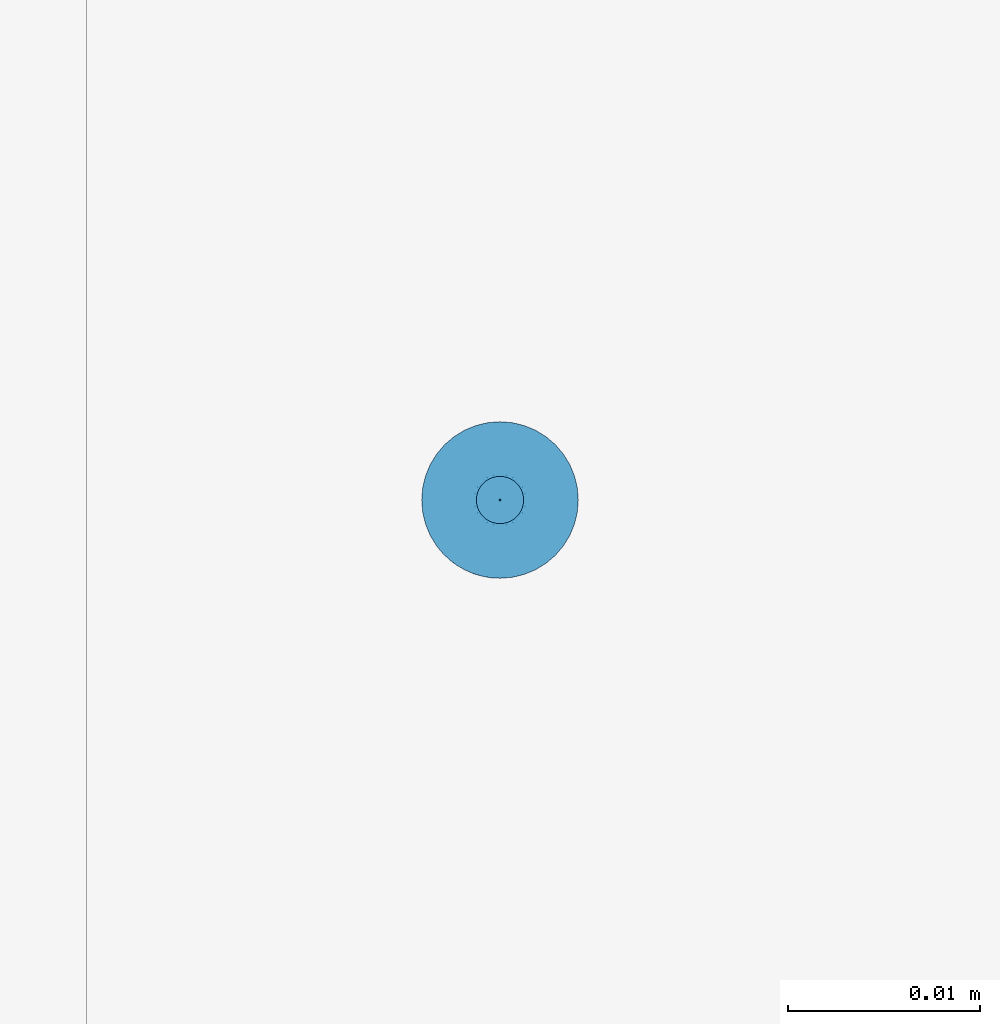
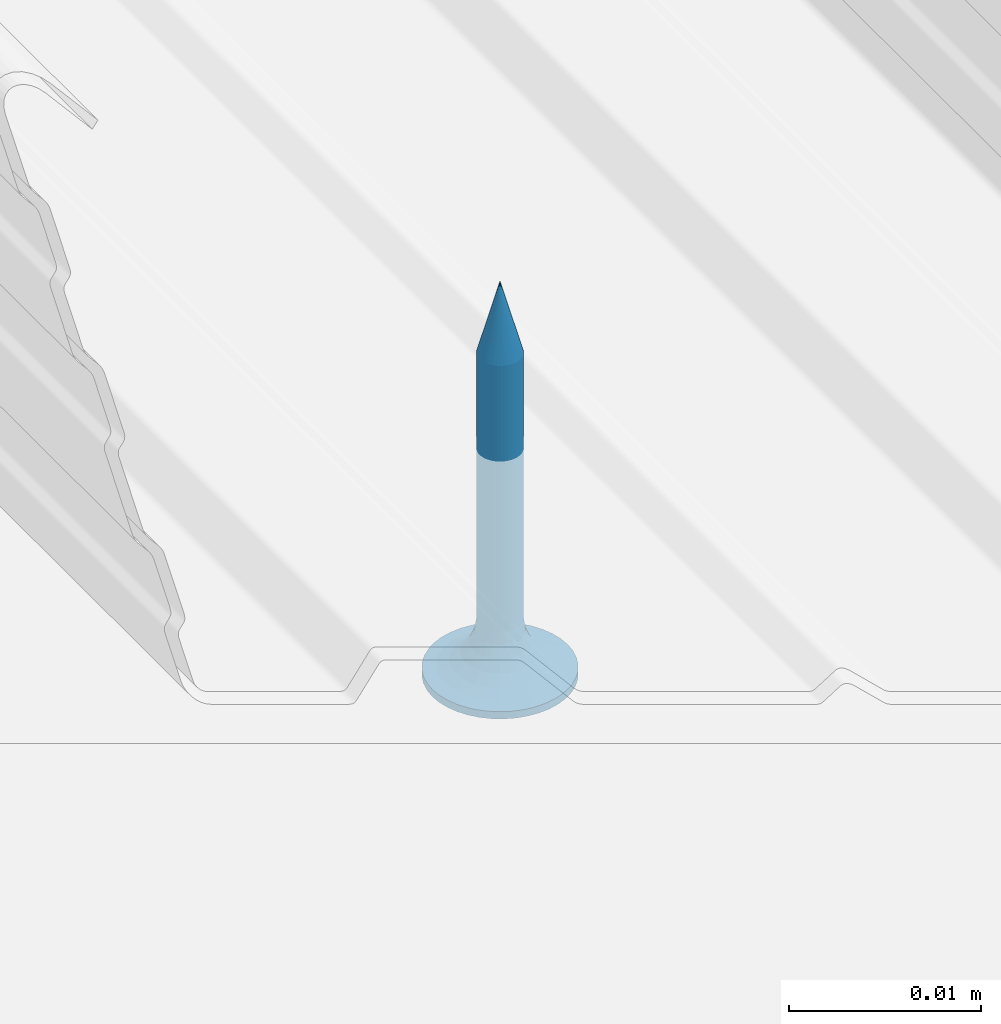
# One storey, part 19 of 62: 1 slab.
"""IFC2X3 building model written with IfcOpenShell, lengths in millimetres."""

from ifc_helpers import new_model, entity, si_unit, converted_unit, direction, frame, origin, origin_with_axes, place, context, project, spatial, faceted_brep, element, save


model = new_model("IFC2X3")

# Units and contexts
model_context = context("Model", 3, precision=1e-05, world=origin(), true_north=direction((0.0, 1.0, 0.0)))
ifc_project = project(units=[si_unit("LENGTHUNIT", "METRE", prefix="MILLI"), si_unit("AREAUNIT", "SQUARE_METRE"), si_unit("VOLUMEUNIT", "CUBIC_METRE"), converted_unit("PLANEANGLEUNIT", "DEGREE", entity("IfcPlaneAngleMeasure", 0.01745), si_unit("PLANEANGLEUNIT", "RADIAN"), dimensions=[0, 0, 0, 0, 0, 0, 0]), si_unit("SOLIDANGLEUNIT", "STERADIAN"), si_unit("MASSUNIT", "GRAM"), si_unit("TIMEUNIT", "SECOND"), si_unit("THERMODYNAMICTEMPERATUREUNIT", "DEGREE_CELSIUS"), si_unit("LUMINOUSINTENSITYUNIT", "LUMEN")], contexts=[model_context])

# Site, building, storey
site_placement = place(None, origin_with_axes())
site = spatial("IfcSite", under=ifc_project, at=site_placement, Name="Default Site", CompositionType="ELEMENT")
building_placement = place(site_placement, origin_with_axes())
building = spatial("IfcBuilding", under=site, at=building_placement, Name="Default Building", CompositionType="ELEMENT")
storey_placement = place(building_placement, origin_with_axes())
storey = spatial("IfcBuildingStorey", under=building, at=storey_placement, Name="Default Building Storey", CompositionType="ELEMENT", Elevation=0.0)

# Slab
slab_placement = place(storey_placement, frame((2896.661558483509, 933.9019927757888, 4687.393042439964), z_axis=(0.0, 1.0, 2.220446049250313e-16), x_axis=(1.0, -1.802054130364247e-31, 8.115730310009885e-16)))
element("IfcSlab", 1, at=slab_placement, inside=storey, Name="Wkręt RIGIPS TN 25", context=model_context, shape_type="Brep", body=[
    faceted_brep([(-141.5377463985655, 3390.556721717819, 555.8000000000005), (-141.5377463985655, 3391.020944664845, 555.8000000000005), (-141.4875329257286, 3391.020944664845, 555.1619773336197), (-141.4875329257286, 3390.556721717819, 555.1619773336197), (-141.338128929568, 3391.020944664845, 554.5396649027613), (-141.338128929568, 3390.556721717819, 554.5396649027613), (-141.0932132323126, 3391.020944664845, 553.9483861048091), (-141.0932132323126, 3390.556721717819, 553.9483861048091), (-140.7588164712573, 3391.020944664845, 553.4027001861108), (-140.7588164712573, 3390.556721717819, 553.4027001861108), (-140.3431726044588, 3391.020944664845, 552.9160437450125), (-140.4541727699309, 3390.556721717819, 553.0314907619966), (-140.1080097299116, 3390.556721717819, 552.6986614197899), (-139.8565161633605, 3391.020944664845, 552.500399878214), (-139.7251262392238, 3390.556721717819, 552.4088262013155), (-139.3108302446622, 3391.020944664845, 552.1660031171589), (-139.3108302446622, 3390.556721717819, 552.1660031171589), (-138.8708651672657, 3390.556721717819, 551.9735584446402), (-138.7195514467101, 3391.020944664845, 551.9210874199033), (-138.4113302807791, 3390.556721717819, 551.8341600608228), (-137.9385961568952, 3390.556721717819, 551.7497404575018), (-138.0972390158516, 3391.020944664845, 551.7716834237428), (-137.459216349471, 3391.020944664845, 551.7214699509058), (-137.459216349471, 3390.556721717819, 551.7214699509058), (-136.8211936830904, 3391.020944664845, 551.7716834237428), (-136.8211936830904, 3390.556721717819, 551.7716834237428), (-136.198881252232, 3391.020944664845, 551.9210874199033), (-136.198881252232, 3390.556721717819, 551.9210874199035), (-135.6076024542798, 3391.020944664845, 552.1660031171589), (-135.6076024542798, 3390.556721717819, 552.1660031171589), (-135.0619165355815, 3391.020944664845, 552.500399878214), (-135.0619165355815, 3390.556721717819, 552.500399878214), (-134.5752600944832, 3391.020944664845, 552.9160437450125), (-134.5752600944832, 3390.556721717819, 552.9160437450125), (-134.1596162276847, 3391.020944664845, 553.4027001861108), (-134.1596162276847, 3390.556721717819, 553.4027001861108), (-133.8252194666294, 3391.020944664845, 553.9483861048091), (-133.8252194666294, 3390.556721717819, 553.9483861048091), (-133.580303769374, 3391.020944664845, 554.5396649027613), (-133.580303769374, 3390.556721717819, 554.5396649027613), (-133.4308997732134, 3391.020944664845, 556.438022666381), (-133.4308997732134, 3390.556721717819, 556.438022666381), (-133.3806863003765, 3390.556721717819, 555.8000000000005), (-133.3806863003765, 3391.020944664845, 555.8000000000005), (-133.4308997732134, 3390.556721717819, 555.1619773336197), (-133.4308997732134, 3391.020944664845, 555.1619773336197), (-133.580303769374, 3391.020944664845, 557.0603350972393), (-133.580303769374, 3390.556721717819, 557.0603350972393), (-133.8252194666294, 3391.020944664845, 557.6516138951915), (-133.8252194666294, 3390.556721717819, 557.6516138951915), (-134.1596162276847, 3391.020944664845, 558.1972998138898), (-134.1596162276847, 3390.556721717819, 558.1972998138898), (-134.5752600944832, 3391.020944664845, 558.6839562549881), (-134.5752600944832, 3390.556721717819, 558.6839562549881), (-135.0619165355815, 3391.020944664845, 559.0996001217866), (-135.0619165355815, 3390.556721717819, 559.0996001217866), (-135.6076024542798, 3391.020944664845, 559.4339968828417), (-135.6076024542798, 3390.556721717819, 559.4339968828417), (-136.198881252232, 3391.020944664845, 559.6789125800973), (-136.198881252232, 3390.556721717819, 559.6789125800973), (-136.8211936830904, 3391.020944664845, 559.8283165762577), (-136.8211936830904, 3390.556721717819, 559.8283165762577), (-137.459216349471, 3391.020944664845, 559.8785300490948), (-137.459216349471, 3390.556721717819, 559.8785300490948), (-138.0972390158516, 3391.020944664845, 559.8283165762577), (-138.0972390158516, 3390.556721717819, 559.8283165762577), (-138.7195514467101, 3391.020944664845, 559.6789125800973), (-138.7195514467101, 3390.556721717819, 559.6789125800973), (-139.3108302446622, 3391.020944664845, 559.4339968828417), (-139.3108302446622, 3390.556721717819, 559.4339968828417), (-139.8565161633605, 3391.020944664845, 559.0996001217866), (-139.8565161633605, 3390.556721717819, 559.0996001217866), (-140.3431726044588, 3391.020944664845, 558.6839562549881), (-140.3431726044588, 3390.556721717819, 558.6839562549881), (-140.7588164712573, 3391.020944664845, 558.1972998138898), (-140.7588164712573, 3390.556721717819, 558.1972998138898), (-141.0932132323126, 3391.020944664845, 557.6516138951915), (-141.0932132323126, 3390.556721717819, 557.6516138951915), (-141.338128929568, 3391.020944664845, 557.0603350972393), (-141.338128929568, 3390.556721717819, 557.0603350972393), (-141.4875329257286, 3391.020944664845, 556.438022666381), (-141.4875329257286, 3390.556721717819, 556.438022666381), (-137.8060615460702, 3388.229732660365, 554.5055560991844), (-137.459216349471, 3387.475459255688, 554.5693795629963), (-137.6517277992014, 3387.475459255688, 554.5845305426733), (-137.459216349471, 3388.229732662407, 554.4598930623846), (-137.8394989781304, 3387.475459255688, 554.6296104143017), (-138.1292698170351, 3388.229732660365, 554.6394333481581), (-138.0179063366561, 3387.475459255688, 554.7035091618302), (-138.1825568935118, 3387.475459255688, 554.8044071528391), (-138.4068150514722, 3388.229732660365, 554.8524012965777), (-138.3293964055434, 3387.475459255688, 554.9298199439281), (-138.6197830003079, 3388.229732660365, 555.1299465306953), (-138.4548091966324, 3387.475459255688, 555.0766594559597), (-138.5557071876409, 3387.475459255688, 555.2413100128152), (-138.7536602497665, 3388.229732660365, 555.4531548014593), (-138.6296059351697, 3387.475459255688, 555.4197173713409), (-138.6746858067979, 3387.475459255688, 555.6074885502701), (-138.7993232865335, 3388.229732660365, 555.7999999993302), (-138.6898367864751, 3387.475459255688, 555.8000000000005), (-138.7536602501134, 3388.229732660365, 556.1468451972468), (-138.6746858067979, 3387.475459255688, 555.9925114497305), (-138.6296059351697, 3387.475459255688, 556.1802826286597), (-138.6197830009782, 3388.229732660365, 556.4700534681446), (-138.5557071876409, 3387.475459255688, 556.3586899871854), (-138.4548091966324, 3387.475459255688, 556.5233405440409), (-138.4068150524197, 3388.229732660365, 556.7475987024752), (-138.3293964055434, 3387.475459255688, 556.6701800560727), (-138.1292698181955, 3388.229732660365, 556.9605666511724), (-138.1825568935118, 3387.475459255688, 556.7955928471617), (-138.0179063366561, 3387.475459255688, 556.8964908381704), (-137.8060615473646, 3388.229732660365, 557.0944439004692), (-137.8394989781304, 3387.475459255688, 556.9703895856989), (-137.6517277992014, 3387.475459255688, 557.0154694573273), (-137.459216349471, 3388.229732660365, 557.1401069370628), (-137.459216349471, 3387.475459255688, 557.0306204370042), (-137.1123711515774, 3388.229732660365, 557.0944439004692), (-137.2667048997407, 3387.475459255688, 557.0154694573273), (-137.0789337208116, 3387.475459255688, 556.9703895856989), (-136.7891628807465, 3388.229732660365, 556.9605666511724), (-136.9005263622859, 3387.475459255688, 556.8964908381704), (-136.7358758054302, 3387.475459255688, 556.7955928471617), (-136.5116176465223, 3388.229732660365, 556.7475987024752), (-136.5890362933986, 3387.475459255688, 556.6701800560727), (-136.2986496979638, 3388.229732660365, 556.4700534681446), (-136.4636235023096, 3387.475459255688, 556.5233405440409), (-136.3627255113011, 3387.475459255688, 556.3586899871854), (-136.1647724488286, 3388.229732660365, 556.1468451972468), (-136.2888267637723, 3387.475459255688, 556.1802826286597), (-136.2437468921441, 3387.475459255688, 555.9925114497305), (-136.1191094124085, 3388.229732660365, 555.7999999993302), (-136.2285959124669, 3387.475459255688, 555.8000000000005), (-136.1647724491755, 3388.229732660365, 555.4531548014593), (-136.2437468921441, 3387.475459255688, 555.6074885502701), (-136.2888267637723, 3387.475459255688, 555.4197173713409), (-136.2986496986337, 3388.229732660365, 555.1299465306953), (-136.3627255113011, 3387.475459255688, 555.2413100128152), (-136.4636235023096, 3387.475459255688, 555.0766594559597), (-136.5116176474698, 3388.229732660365, 554.8524012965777), (-136.5890362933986, 3387.475459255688, 554.9298199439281), (-136.7891628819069, 3388.229732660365, 554.6394333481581), (-136.7358758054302, 3387.475459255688, 554.8044071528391), (-136.9005263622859, 3387.475459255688, 554.7035091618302), (-137.1123711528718, 3388.229732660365, 554.5055560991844), (-137.0789337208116, 3387.475459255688, 554.6296104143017), (-137.2667048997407, 3387.475459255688, 554.5845305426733), (-137.459216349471, 3388.936142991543, 554.1737111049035), (-137.8801308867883, 3388.936142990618, 554.2291255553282), (-138.2723607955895, 3388.936142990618, 554.39159250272), (-138.6091762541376, 3388.936142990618, 554.6500400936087), (-138.8676238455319, 3388.936142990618, 554.9868555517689), (-139.030090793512, 3388.936142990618, 555.3790854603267), (-139.0855052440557, 3388.936142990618, 555.7999999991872), (-139.0300907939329, 3388.936142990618, 556.220914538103), (-138.8676238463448, 3388.936142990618, 556.6131444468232), (-138.6091762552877, 3388.936142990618, 556.949959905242), (-138.272360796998, 3388.936142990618, 557.2084074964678), (-137.8801308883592, 3388.936142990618, 557.3708744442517), (-137.459216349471, 3388.936142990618, 557.4262888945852), (-137.0383018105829, 3388.936142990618, 557.3708744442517), (-136.646071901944, 3388.936142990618, 557.2084074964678), (-136.3092564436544, 3388.936142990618, 556.949959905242), (-136.0508088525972, 3388.936142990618, 556.6131444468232), (-135.8883419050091, 3388.936142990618, 556.220914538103), (-135.8329274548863, 3388.936142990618, 555.7999999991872), (-135.88834190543, 3388.936142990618, 555.3790854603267), (-136.0508088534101, 3388.936142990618, 554.9868555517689), (-136.3092564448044, 3388.936142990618, 554.6500400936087), (-136.6460719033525, 3388.936142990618, 554.39159250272), (-137.0383018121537, 3388.936142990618, 554.2291255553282), (-137.459216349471, 3389.553938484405, 553.727343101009), (-137.995659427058, 3389.553938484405, 553.7979671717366), (-138.4955447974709, 3389.553938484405, 554.0050264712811), (-138.9248060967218, 3389.553938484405, 554.3344102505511), (-139.2541898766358, 3389.553938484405, 554.763671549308), (-139.46124917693, 3389.553938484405, 555.2635569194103), (-139.5318732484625, 3389.553938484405, 555.799999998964), (-139.4612491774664, 3389.553938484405, 556.3364430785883), (-139.2541898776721, 3389.553938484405, 556.8363284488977), (-138.9248060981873, 3389.553938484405, 557.2655897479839), (-138.495544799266, 3389.553938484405, 557.5949735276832), (-137.9956594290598, 3389.553938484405, 557.8020328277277), (-137.459216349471, 3389.553938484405, 557.8726568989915), (-136.9227732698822, 3389.553938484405, 557.8020328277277), (-136.422887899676, 3389.553938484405, 557.5949735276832), (-135.9936266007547, 3389.553938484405, 557.2655897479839), (-135.6642428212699, 3389.553938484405, 556.8363284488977), (-135.4571835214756, 3389.553938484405, 556.3364430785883), (-135.3865594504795, 3389.553938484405, 555.799999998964), (-135.457183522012, 3389.553938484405, 555.2635569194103), (-135.6642428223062, 3389.553938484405, 554.763671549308), (-135.9936266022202, 3389.553938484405, 554.3344102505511), (-136.4228879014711, 3389.553938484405, 554.0050264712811), (-136.922773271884, 3389.553938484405, 553.7979671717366), (-137.459216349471, 3390.04747944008, 553.1465393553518), (-138.1459824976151, 3390.047479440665, 553.2369538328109), (-138.7859466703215, 3390.047479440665, 553.5020356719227), (-139.3354963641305, 3390.047479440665, 553.9237199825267), (-139.7571806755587, 3390.047479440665, 554.4732696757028), (-140.0222625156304, 3390.047479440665, 555.1132338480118), (-140.1126769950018, 3390.047479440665, 555.7999999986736), (-140.0222625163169, 3390.047479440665, 556.4867661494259), (-139.7571806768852, 3390.047479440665, 557.1267303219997), (-139.3354963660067, 3390.047479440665, 557.6762800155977), (-138.7859466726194, 3390.047479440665, 558.0979643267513), (-138.1459825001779, 3390.047479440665, 558.3630461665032), (-137.459216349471, 3390.047479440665, 558.4534606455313), (-136.7724501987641, 3390.047479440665, 558.3630461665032), (-136.1324860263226, 3390.047479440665, 558.0979643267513), (-135.5829363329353, 3390.047479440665, 557.6762800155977), (-135.1612520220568, 3390.047479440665, 557.1267303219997), (-134.8961701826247, 3390.047479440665, 556.4867661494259), (-134.8057557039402, 3390.047479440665, 555.7999999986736), (-134.8961701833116, 3390.047479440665, 555.1132338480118), (-135.1612520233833, 3390.047479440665, 554.4732696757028), (-135.5829363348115, 3390.047479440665, 553.9237199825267), (-136.1324860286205, 3390.047479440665, 553.5020356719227), (-136.7724502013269, 3390.047479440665, 553.2369538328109), (-137.459216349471, 3390.388294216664, 552.4648055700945), (-138.3224281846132, 3390.388294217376, 552.5784495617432), (-139.1268135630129, 3390.388294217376, 552.9116368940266), (-139.8175549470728, 3390.388294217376, 553.4416613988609), (-140.3475794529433, 3390.388294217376, 554.1324027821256), (-140.6807667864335, 3390.388294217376, 554.936788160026), (-140.7944107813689, 3390.388294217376, 555.7999999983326), (-140.6807667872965, 3390.388294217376, 556.663211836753), (-140.3475794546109, 3390.388294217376, 557.4675972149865), (-139.8175549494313, 3390.388294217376, 558.1583385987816), (-139.1268135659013, 3390.388294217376, 558.6883631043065), (-138.3224281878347, 3390.388294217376, 559.0215504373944), (-137.459216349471, 3390.388294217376, 559.1351944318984), (-136.5960045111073, 3390.388294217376, 559.0215504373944), (-135.7916191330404, 3390.388294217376, 558.6883631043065), (-135.1008777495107, 3390.388294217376, 558.1583385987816), (-134.5708532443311, 3390.388294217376, 557.4675972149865), (-134.2376659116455, 3390.388294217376, 556.663211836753), (-134.1240219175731, 3390.388294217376, 555.7999999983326), (-134.2376659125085, 3390.388294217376, 554.936788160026), (-134.5708532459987, 3390.388294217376, 554.1324027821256), (-135.1008777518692, 3390.388294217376, 553.4416613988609), (-135.7916191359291, 3390.388294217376, 552.9116368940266), (-136.5960045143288, 3390.388294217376, 552.5784495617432), (-138.6898367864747, 3370.55807436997, 555.8000000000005), (-138.6746858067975, 3370.55807436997, 555.6074885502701), (-138.6296059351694, 3370.55807436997, 555.4197173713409), (-138.5557071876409, 3370.55807436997, 555.2413100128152), (-138.4548091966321, 3370.55807436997, 555.0766594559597), (-138.329396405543, 3370.55807436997, 554.9298199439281), (-138.1825568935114, 3370.55807436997, 554.8044071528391), (-138.0179063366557, 3370.55807436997, 554.7035091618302), (-137.83949897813, 3370.55807436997, 554.6296104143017), (-137.651727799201, 3370.55807436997, 554.5845305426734), (-137.4592163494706, 3370.55807436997, 554.5693795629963), (-137.2667048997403, 3370.55807436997, 554.5845305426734), (-137.0789337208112, 3370.55807436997, 554.6296104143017), (-136.9005263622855, 3370.55807436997, 554.7035091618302), (-136.7358758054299, 3370.55807436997, 554.8044071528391), (-136.5890362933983, 3370.55807436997, 554.9298199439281), (-136.4636235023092, 3370.55807436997, 555.0766594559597), (-136.3627255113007, 3370.55807436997, 555.2413100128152), (-136.2888267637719, 3370.55807436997, 555.4197173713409), (-136.2437468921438, 3370.55807436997, 555.9925114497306), (-136.2285959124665, 3370.55807436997, 555.8000000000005), (-136.2437468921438, 3370.55807436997, 555.6074885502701), (-136.2888267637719, 3370.55807436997, 556.1802826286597), (-136.3627255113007, 3370.55807436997, 556.3586899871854), (-136.4636235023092, 3370.55807436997, 556.5233405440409), (-136.5890362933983, 3370.55807436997, 556.6701800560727), (-136.7358758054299, 3370.55807436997, 556.7955928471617), (-136.9005263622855, 3370.55807436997, 556.8964908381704), (-137.0789337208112, 3370.55807436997, 556.9703895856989), (-137.2667048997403, 3370.55807436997, 557.0154694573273), (-137.4592163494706, 3370.55807436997, 557.0306204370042), (-137.651727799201, 3370.55807436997, 557.0154694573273), (-137.83949897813, 3370.55807436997, 556.9703895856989), (-138.0179063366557, 3370.55807436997, 556.8964908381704), (-138.1825568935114, 3370.55807436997, 556.7955928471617), (-138.329396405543, 3370.55807436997, 556.6701800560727), (-138.4548091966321, 3370.55807436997, 556.5233405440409), (-138.5557071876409, 3370.55807436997, 556.3586899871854), (-138.6296059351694, 3370.55807436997, 556.1802826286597), (-138.6746858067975, 3370.55807436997, 555.9925114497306), (-137.4592163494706, 3366.021033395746, 555.8000000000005), (-139.9592163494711, 3391.020944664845, 556.3000000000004), (-137.9592163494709, 3391.020944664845, 556.3000000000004), (-139.9592163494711, 3391.020944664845, 555.3000000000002), (-137.9592163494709, 3391.020944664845, 555.3000000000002), (-137.9592163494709, 3391.020944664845, 553.3000000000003), (-136.9592163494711, 3391.020944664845, 553.3000000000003), (-136.9592163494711, 3391.020944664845, 555.3000000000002), (-134.9592163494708, 3391.020944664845, 555.3000000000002), (-134.9592163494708, 3391.020944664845, 556.3000000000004), (-136.9592163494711, 3391.020944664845, 556.3000000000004), (-136.9592163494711, 3391.020944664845, 558.3000000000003), (-137.9592163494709, 3391.020944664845, 558.3000000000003), (-136.9592163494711, 3390.128974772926, 556.3000000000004), (-134.9592163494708, 3390.128974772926, 556.3000000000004), (-134.9592163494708, 3390.128974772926, 555.3000000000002), (-136.9592163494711, 3390.128974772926, 555.3000000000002), (-136.9592163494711, 3390.128974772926, 553.3000000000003), (-137.9592163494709, 3390.128974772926, 553.3000000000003), (-137.9592163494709, 3390.128974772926, 555.3000000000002), (-139.9592163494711, 3390.128974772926, 555.3000000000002), (-139.9592163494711, 3390.128974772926, 556.3000000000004), (-137.9592163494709, 3390.128974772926, 556.3000000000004), (-137.9592163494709, 3390.128974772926, 558.3000000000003), (-136.9592163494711, 3390.128974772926, 558.3000000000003)], [[[0, 1, 2, 3]], [[4, 5, 3, 2]], [[6, 7, 5, 4]], [[7, 6, 8, 9]], [[8, 10, 9]], [[10, 11, 9]], [[12, 11, 13]], [[11, 10, 13]], [[13, 14, 12]], [[13, 15, 14]], [[15, 16, 14]], [[17, 16, 18]], [[16, 15, 18]], [[18, 19, 17]], [[20, 19, 21]], [[19, 18, 21]], [[21, 22, 20]], [[22, 23, 20]], [[23, 22, 24, 25]], [[26, 27, 25, 24]], [[28, 29, 27, 26]], [[29, 28, 30, 31]], [[32, 33, 31, 30]], [[33, 32, 34, 35]], [[36, 37, 35, 34]], [[38, 39, 37, 36]], [[40, 41, 42, 43]], [[43, 42, 44, 45]], [[39, 38, 45, 44]], [[46, 47, 41, 40]], [[48, 49, 47, 46]], [[49, 48, 50, 51]], [[52, 53, 51, 50]], [[53, 52, 54, 55]], [[56, 57, 55, 54]], [[58, 59, 57, 56]], [[59, 58, 60, 61]], [[62, 63, 61, 60]], [[63, 62, 64, 65]], [[66, 67, 65, 64]], [[68, 69, 67, 66]], [[69, 68, 70, 71]], [[72, 73, 71, 70]], [[73, 72, 74, 75]], [[76, 77, 75, 74]], [[78, 79, 77, 76]], [[79, 78, 80, 81]], [[1, 0, 81, 80]], [[82, 83, 84]], [[82, 85, 83]], [[84, 86, 82]], [[82, 86, 87]], [[88, 87, 86]], [[87, 88, 89]], [[89, 90, 87]], [[89, 91, 90]], [[92, 91, 93]], [[92, 90, 91]], [[93, 94, 92]], [[92, 94, 95]], [[96, 95, 94]], [[95, 96, 97]], [[97, 98, 95]], [[97, 99, 98]], [[100, 99, 101]], [[100, 98, 99]], [[101, 102, 100]], [[100, 102, 103]], [[104, 103, 102]], [[103, 104, 105]], [[105, 106, 103]], [[105, 107, 106]], [[108, 107, 109]], [[108, 106, 107]], [[109, 110, 108]], [[108, 110, 111]], [[112, 111, 110]], [[111, 112, 113]], [[113, 114, 111]], [[113, 115, 114]], [[116, 115, 117]], [[116, 114, 115]], [[117, 118, 116]], [[116, 118, 119]], [[120, 119, 118]], [[119, 120, 121]], [[121, 122, 119]], [[121, 123, 122]], [[124, 123, 125]], [[124, 122, 123]], [[125, 126, 124]], [[124, 126, 127]], [[128, 127, 126]], [[127, 128, 129]], [[129, 130, 127]], [[129, 131, 130]], [[132, 131, 133]], [[132, 130, 131]], [[133, 134, 132]], [[132, 134, 135]], [[136, 135, 134]], [[135, 136, 137]], [[137, 138, 135]], [[137, 139, 138]], [[140, 139, 141]], [[140, 138, 139]], [[141, 142, 140]], [[140, 142, 143]], [[144, 143, 142]], [[143, 144, 145]], [[145, 85, 143]], [[145, 83, 85]], [[146, 85, 147]], [[82, 147, 85]], [[87, 148, 147, 82]], [[90, 149, 148, 87]], [[92, 150, 149, 90]], [[95, 151, 150, 92]], [[98, 152, 151, 95]], [[100, 153, 152, 98]], [[103, 154, 153, 100]], [[106, 155, 154, 103]], [[108, 156, 155, 106]], [[111, 157, 156, 108]], [[114, 158, 157, 111]], [[116, 159, 158, 114]], [[119, 160, 159, 116]], [[122, 161, 160, 119]], [[124, 162, 161, 122]], [[127, 163, 162, 124]], [[130, 164, 163, 127]], [[132, 165, 164, 130]], [[135, 166, 165, 132]], [[138, 167, 166, 135]], [[140, 168, 167, 138]], [[143, 169, 168, 140]], [[143, 85, 169]], [[146, 169, 85]], [[170, 146, 171]], [[147, 171, 146]], [[148, 172, 171, 147]], [[149, 173, 172, 148]], [[150, 174, 173, 149]], [[151, 175, 174, 150]], [[152, 176, 175, 151]], [[153, 177, 176, 152]], [[154, 178, 177, 153]], [[155, 179, 178, 154]], [[156, 180, 179, 155]], [[157, 181, 180, 156]], [[158, 182, 181, 157]], [[159, 183, 182, 158]], [[160, 184, 183, 159]], [[161, 185, 184, 160]], [[162, 186, 185, 161]], [[163, 187, 186, 162]], [[164, 188, 187, 163]], [[165, 189, 188, 164]], [[166, 190, 189, 165]], [[167, 191, 190, 166]], [[168, 192, 191, 167]], [[169, 193, 192, 168]], [[169, 146, 193]], [[170, 193, 146]], [[194, 170, 195]], [[171, 195, 170]], [[172, 196, 195, 171]], [[173, 197, 196, 172]], [[174, 198, 197, 173]], [[175, 199, 198, 174]], [[176, 200, 199, 175]], [[177, 201, 200, 176]], [[178, 202, 201, 177]], [[179, 203, 202, 178]], [[180, 204, 203, 179]], [[181, 205, 204, 180]], [[182, 206, 205, 181]], [[183, 207, 206, 182]], [[184, 208, 207, 183]], [[185, 209, 208, 184]], [[186, 210, 209, 185]], [[187, 211, 210, 186]], [[188, 212, 211, 187]], [[189, 213, 212, 188]], [[190, 214, 213, 189]], [[191, 215, 214, 190]], [[192, 216, 215, 191]], [[193, 217, 216, 192]], [[193, 170, 217]], [[194, 217, 170]], [[218, 19, 20]], [[218, 219, 19]], [[20, 23, 218]], [[218, 194, 219]], [[195, 219, 194]], [[219, 16, 17]], [[219, 220, 16]], [[17, 19, 219]], [[196, 220, 219, 195]], [[221, 11, 12]], [[220, 12, 14]], [[220, 221, 12]], [[14, 16, 220]], [[197, 221, 220, 196]], [[222, 7, 9]], [[9, 221, 222]], [[9, 11, 221]], [[198, 222, 221, 197]], [[5, 7, 223]], [[222, 223, 7]], [[199, 223, 222, 198]], [[223, 0, 3]], [[223, 224, 0]], [[3, 5, 223]], [[200, 224, 223, 199]], [[225, 79, 81]], [[81, 224, 225]], [[81, 0, 224]], [[201, 225, 224, 200]], [[225, 226, 77, 79]], [[202, 226, 225, 201]], [[226, 73, 75]], [[226, 227, 73]], [[75, 77, 226]], [[203, 227, 226, 202]], [[228, 69, 71]], [[71, 227, 228]], [[71, 73, 227]], [[204, 228, 227, 203]], [[228, 229, 67, 69]], [[205, 229, 228, 204]], [[229, 63, 65]], [[229, 230, 63]], [[65, 67, 229]], [[206, 230, 229, 205]], [[231, 59, 61]], [[61, 230, 231]], [[61, 63, 230]], [[207, 231, 230, 206]], [[231, 232, 57, 59]], [[208, 232, 231, 207]], [[232, 53, 55]], [[232, 233, 53]], [[55, 57, 232]], [[209, 233, 232, 208]], [[234, 49, 51]], [[51, 233, 234]], [[51, 53, 233]], [[210, 234, 233, 209]], [[234, 235, 47, 49]], [[211, 235, 234, 210]], [[235, 42, 41]], [[235, 236, 42]], [[41, 47, 235]], [[212, 236, 235, 211]], [[237, 39, 44]], [[44, 236, 237]], [[44, 42, 236]], [[213, 237, 236, 212]], [[37, 39, 238]], [[237, 238, 39]], [[214, 238, 237, 213]], [[238, 33, 35]], [[238, 239, 33]], [[35, 37, 238]], [[215, 239, 238, 214]], [[240, 29, 31]], [[31, 239, 240]], [[31, 33, 239]], [[216, 240, 239, 215]], [[27, 29, 241]], [[240, 241, 29]], [[217, 241, 240, 216]], [[217, 194, 241]], [[218, 241, 194]], [[241, 23, 25]], [[241, 218, 23]], [[25, 27, 241]], [[242, 99, 97, 243]], [[96, 244, 243, 97]], [[94, 245, 244, 96]], [[245, 94, 93, 246]], [[91, 247, 246, 93]], [[247, 91, 89, 248]], [[88, 249, 248, 89]], [[86, 250, 249, 88]], [[250, 86, 84, 251]], [[83, 252, 251, 84]], [[252, 83, 145, 253]], [[144, 254, 253, 145]], [[142, 255, 254, 144]], [[255, 142, 141, 256]], [[139, 257, 256, 141]], [[257, 139, 137, 258]], [[136, 259, 258, 137]], [[134, 260, 259, 136]], [[129, 261, 262, 131]], [[131, 262, 263, 133]], [[260, 134, 133, 263]], [[128, 264, 261, 129]], [[126, 265, 264, 128]], [[265, 126, 125, 266]], [[123, 267, 266, 125]], [[267, 123, 121, 268]], [[120, 269, 268, 121]], [[118, 270, 269, 120]], [[270, 118, 117, 271]], [[115, 272, 271, 117]], [[272, 115, 113, 273]], [[112, 274, 273, 113]], [[110, 275, 274, 112]], [[275, 110, 109, 276]], [[107, 277, 276, 109]], [[277, 107, 105, 278]], [[104, 279, 278, 105]], [[102, 280, 279, 104]], [[280, 102, 101, 281]], [[99, 242, 281, 101]], [[243, 244, 282]], [[282, 242, 243]], [[244, 245, 282]], [[246, 247, 282]], [[282, 245, 246]], [[248, 249, 282]], [[282, 247, 248]], [[249, 250, 282]], [[251, 252, 282]], [[282, 250, 251]], [[253, 254, 282]], [[282, 252, 253]], [[254, 255, 282]], [[256, 257, 282]], [[282, 255, 256]], [[258, 259, 282]], [[282, 257, 258]], [[259, 260, 282]], [[263, 262, 282]], [[282, 260, 263]], [[261, 264, 282]], [[282, 262, 261]], [[264, 265, 282]], [[266, 267, 282]], [[282, 265, 266]], [[268, 269, 282]], [[282, 267, 268]], [[269, 270, 282]], [[271, 272, 282]], [[282, 270, 271]], [[273, 274, 282]], [[282, 272, 273]], [[274, 275, 282]], [[276, 277, 282]], [[282, 275, 276]], [[278, 279, 282]], [[282, 277, 278]], [[279, 280, 282]], [[281, 242, 282]], [[282, 280, 281]], [[283, 76, 74, 284]], [[283, 285, 286, 287, 288, 289, 290, 291, 292, 293, 294, 284, 74, 72, 70, 68, 66, 64, 62, 60, 58, 56, 54, 52, 50, 48, 46, 40, 43, 45, 38, 36, 34, 32, 30, 28, 26, 24, 22, 21, 18, 15, 13, 10, 8, 6, 4, 2, 1, 80, 78, 76]], [[295, 296, 297, 298, 299, 300, 301, 302, 303, 304, 305, 306]], [[297, 290, 289, 298]], [[296, 291, 290, 297]], [[295, 292, 291, 296]], [[306, 293, 292, 295]], [[305, 294, 293, 306]], [[304, 284, 294, 305]], [[303, 283, 284, 304]], [[302, 285, 283, 303]], [[301, 286, 285, 302]], [[300, 287, 286, 301]], [[299, 288, 287, 300]], [[298, 289, 288, 299]]]),
])

save(model, "model.ifc")
